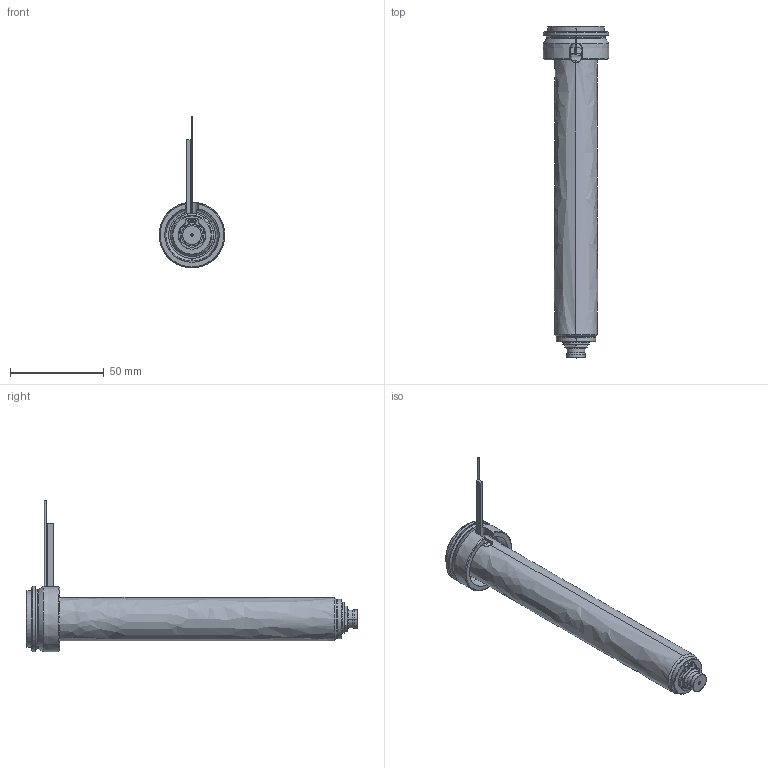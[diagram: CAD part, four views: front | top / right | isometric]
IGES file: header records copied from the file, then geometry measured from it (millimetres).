
Start section: SolidWorks IGES file using analytic representation for surfaces
Global section: file name: C:\Documents and Settings\ws-20\Desktop\TEM\UGEP3154-M-A-1 [Øf-0.50 P-0 ØC-7.0].IGS; native system: SolidWorks 2012; preprocessor: SolidWorks 2012; author: ws-20; date: 120404.082508; units: millimetre
Bounding box: 35 x 177 x 80.9 mm (x, y, z)
Surface area: 25429.7 mm2 (no closed solid volume)
Topology: 0 solids, 0 shells, 118 faces, 1596 edges, 1596 vertices
Faces by surface type: revolution 71, bspline 47
